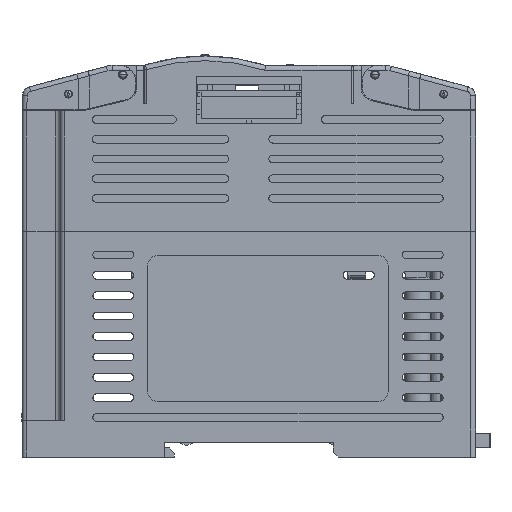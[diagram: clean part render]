
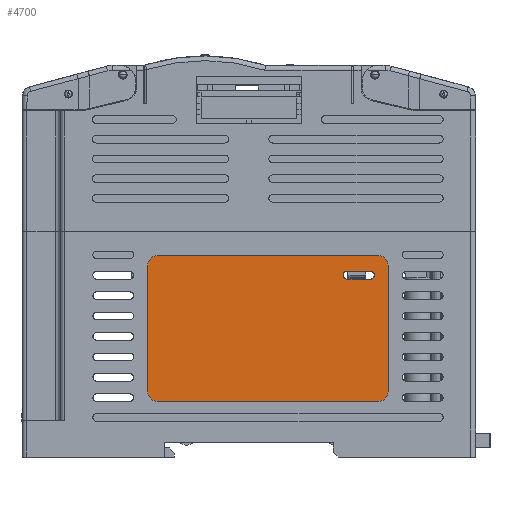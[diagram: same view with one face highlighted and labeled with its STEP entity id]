
A CAD part, left-side view. The second image highlights one B-rep face of the part: STEP entity #4700.
In plain terms, the highlighted planar face has unit normal (-1, 0, 0).
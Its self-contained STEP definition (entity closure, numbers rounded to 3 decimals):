
#246 = VERTEX_POINT ( 'NONE', #55803 ) ;
#787 = CIRCLE ( 'NONE', #13936, 2. ) ;
#1450 = LINE ( 'NONE', #22635, #14474 ) ;
#3240 = CIRCLE ( 'NONE', #15232, 0.8 ) ;
#3316 = ORIENTED_EDGE ( 'NONE', *, *, #4605, .F. ) ;
#3671 = AXIS2_PLACEMENT_3D ( 'NONE', #37310, #47889, #58162 ) ;
#4605 = EDGE_CURVE ( 'NONE', #42013, #60708, #64419, .T. ) ;
#4700 = ADVANCED_FACE ( 'NONE', ( #54514, #24132 ), #45273, .F. ) ;
#5042 = VERTEX_POINT ( 'NONE', #13097 ) ;
#5255 = VERTEX_POINT ( 'NONE', #37613 ) ;
#5494 = VECTOR ( 'NONE', #29542, 1000. ) ;
#7698 = EDGE_CURVE ( 'NONE', #31448, #62986, #38439, .T. ) ;
#7954 = LINE ( 'NONE', #65010, #42555 ) ;
#9081 = EDGE_CURVE ( 'NONE', #43415, #20474, #787, .T. ) ;
#9570 = ORIENTED_EDGE ( 'NONE', *, *, #31612, .T. ) ;
#9587 = EDGE_LOOP ( 'NONE', ( #53824, #30573, #3316, #46898 ) ) ;
#10534 = CARTESIAN_POINT ( 'NONE',  ( -65.065, -27.15, -68.334 ) ) ;
#12755 = ORIENTED_EDGE ( 'NONE', *, *, #9081, .T. ) ;
#12895 = EDGE_CURVE ( 'NONE', #62986, #14877, #1450, .T. ) ;
#13097 = CARTESIAN_POINT ( 'NONE',  ( -65.065, -20.53, -42.733 ) ) ;
#13806 = CARTESIAN_POINT ( 'NONE',  ( -65.065, 21.15, -39.834 ) ) ;
#13936 = AXIS2_PLACEMENT_3D ( 'NONE', #27998, #22867, #38577 ) ;
#14180 = DIRECTION ( 'NONE',  ( 1., 0., 0. ) ) ;
#14474 = VECTOR ( 'NONE', #22974, 1000. ) ;
#14596 = CIRCLE ( 'NONE', #3671, 2. ) ;
#14877 = VERTEX_POINT ( 'NONE', #51519 ) ;
#15025 = DIRECTION ( 'NONE',  ( -1., 0., 0. ) ) ;
#15232 = AXIS2_PLACEMENT_3D ( 'NONE', #44340, #65890, #18069 ) ;
#15562 = VECTOR ( 'NONE', #48705, 1000. ) ;
#15580 = ORIENTED_EDGE ( 'NONE', *, *, #55975, .T. ) ;
#17849 = EDGE_LOOP ( 'NONE', ( #45071, #36575, #12755, #15580, #22948, #9570, #24744, #36608 ) ) ;
#17989 = CARTESIAN_POINT ( 'NONE',  ( -65.065, -20.53, -42.733 ) ) ;
#18069 = DIRECTION ( 'NONE',  ( 0., 0., -1. ) ) ;
#18442 = AXIS2_PLACEMENT_3D ( 'NONE', #34721, #66154, #50768 ) ;
#18924 = EDGE_CURVE ( 'NONE', #14877, #30291, #14596, .T. ) ;
#19092 = CARTESIAN_POINT ( 'NONE',  ( -65.065, 19.15, -68.334 ) ) ;
#20474 = VERTEX_POINT ( 'NONE', #60881 ) ;
#22635 = CARTESIAN_POINT ( 'NONE',  ( -65.065, -29.15, -66.334 ) ) ;
#22763 = CIRCLE ( 'NONE', #18442, 0.8 ) ;
#22867 = DIRECTION ( 'NONE',  ( -1., 0., 0. ) ) ;
#22948 = ORIENTED_EDGE ( 'NONE', *, *, #63991, .T. ) ;
#22974 = DIRECTION ( 'NONE',  ( 0., 0., 1. ) ) ;
#23758 = VECTOR ( 'NONE', #55605, 1000. ) ;
#24132 = FACE_OUTER_BOUND ( 'NONE', #17849, .T. ) ;
#24744 = ORIENTED_EDGE ( 'NONE', *, *, #7698, .T. ) ;
#27247 = VERTEX_POINT ( 'NONE', #38726 ) ;
#27888 = CARTESIAN_POINT ( 'NONE',  ( -65.065, -25.47, -41.133 ) ) ;
#27998 = CARTESIAN_POINT ( 'NONE',  ( -65.065, 19.15, -39.834 ) ) ;
#28118 = EDGE_CURVE ( 'NONE', #5042, #60708, #3240, .T. ) ;
#28992 = LINE ( 'NONE', #19092, #23758 ) ;
#29542 = DIRECTION ( 'NONE',  ( 0., 0., -1. ) ) ;
#29577 = DIRECTION ( 'NONE',  ( -1., 0., 0. ) ) ;
#29700 = CARTESIAN_POINT ( 'NONE',  ( -65.065, -29.15, -66.334 ) ) ;
#29729 = AXIS2_PLACEMENT_3D ( 'NONE', #62154, #15025, #67286 ) ;
#30291 = VERTEX_POINT ( 'NONE', #65439 ) ;
#30573 = ORIENTED_EDGE ( 'NONE', *, *, #28118, .T. ) ;
#31115 = AXIS2_PLACEMENT_3D ( 'NONE', #61658, #29577, #50402 ) ;
#31448 = VERTEX_POINT ( 'NONE', #10534 ) ;
#31612 = EDGE_CURVE ( 'NONE', #5255, #31448, #28992, .T. ) ;
#34721 = CARTESIAN_POINT ( 'NONE',  ( -65.065, -25.47, -41.933 ) ) ;
#36575 = ORIENTED_EDGE ( 'NONE', *, *, #57356, .T. ) ;
#36608 = ORIENTED_EDGE ( 'NONE', *, *, #12895, .T. ) ;
#37310 = CARTESIAN_POINT ( 'NONE',  ( -65.065, -27.15, -39.834 ) ) ;
#37613 = CARTESIAN_POINT ( 'NONE',  ( -65.065, 19.15, -68.334 ) ) ;
#38439 = CIRCLE ( 'NONE', #29729, 2. ) ;
#38577 = DIRECTION ( 'NONE',  ( 0., 0., 1. ) ) ;
#38726 = CARTESIAN_POINT ( 'NONE',  ( -65.065, 21.15, -66.334 ) ) ;
#38773 = CIRCLE ( 'NONE', #31115, 2. ) ;
#41955 = CARTESIAN_POINT ( 'NONE',  ( -65.065, -25.47, -41.133 ) ) ;
#42013 = VERTEX_POINT ( 'NONE', #41955 ) ;
#42555 = VECTOR ( 'NONE', #66358, 1000. ) ;
#43415 = VERTEX_POINT ( 'NONE', #44333 ) ;
#44333 = CARTESIAN_POINT ( 'NONE',  ( -65.065, 19.15, -37.834 ) ) ;
#44340 = CARTESIAN_POINT ( 'NONE',  ( -65.065, -20.53, -41.933 ) ) ;
#45071 = ORIENTED_EDGE ( 'NONE', *, *, #18924, .T. ) ;
#45273 = PLANE ( 'NONE',  #57122 ) ;
#46898 = ORIENTED_EDGE ( 'NONE', *, *, #49452, .T. ) ;
#47889 = DIRECTION ( 'NONE',  ( -1., 0., 0. ) ) ;
#48696 = DIRECTION ( 'NONE',  ( 0., 1., 0. ) ) ;
#48705 = DIRECTION ( 'NONE',  ( 0., -1., 0. ) ) ;
#49452 = EDGE_CURVE ( 'NONE', #42013, #246, #22763, .T. ) ;
#50402 = DIRECTION ( 'NONE',  ( 0., 1., 0. ) ) ;
#50768 = DIRECTION ( 'NONE',  ( 0., 0., 1. ) ) ;
#51519 = CARTESIAN_POINT ( 'NONE',  ( -65.065, -29.15, -39.834 ) ) ;
#53824 = ORIENTED_EDGE ( 'NONE', *, *, #59699, .F. ) ;
#54514 = FACE_BOUND ( 'NONE', #9587, .T. ) ;
#55605 = DIRECTION ( 'NONE',  ( 0., -1., 0. ) ) ;
#55803 = CARTESIAN_POINT ( 'NONE',  ( -65.065, -25.47, -42.733 ) ) ;
#55975 = EDGE_CURVE ( 'NONE', #20474, #27247, #60620, .T. ) ;
#57122 = AXIS2_PLACEMENT_3D ( 'NONE', #65452, #14180, #60980 ) ;
#57356 = EDGE_CURVE ( 'NONE', #30291, #43415, #7954, .T. ) ;
#58162 = DIRECTION ( 'NONE',  ( 0., -1., 0. ) ) ;
#59325 = VECTOR ( 'NONE', #48696, 1000. ) ;
#59699 = EDGE_CURVE ( 'NONE', #5042, #246, #65113, .T. ) ;
#60620 = LINE ( 'NONE', #13806, #5494 ) ;
#60708 = VERTEX_POINT ( 'NONE', #62987 ) ;
#60881 = CARTESIAN_POINT ( 'NONE',  ( -65.065, 21.15, -39.834 ) ) ;
#60980 = DIRECTION ( 'NONE',  ( 0., 1., 0. ) ) ;
#61658 = CARTESIAN_POINT ( 'NONE',  ( -65.065, 19.15, -66.334 ) ) ;
#62154 = CARTESIAN_POINT ( 'NONE',  ( -65.065, -27.15, -66.334 ) ) ;
#62986 = VERTEX_POINT ( 'NONE', #29700 ) ;
#62987 = CARTESIAN_POINT ( 'NONE',  ( -65.065, -20.53, -41.133 ) ) ;
#63991 = EDGE_CURVE ( 'NONE', #27247, #5255, #38773, .T. ) ;
#64419 = LINE ( 'NONE', #27888, #59325 ) ;
#65010 = CARTESIAN_POINT ( 'NONE',  ( -65.065, -27.15, -37.834 ) ) ;
#65113 = LINE ( 'NONE', #17989, #15562 ) ;
#65439 = CARTESIAN_POINT ( 'NONE',  ( -65.065, -27.15, -37.834 ) ) ;
#65452 = CARTESIAN_POINT ( 'NONE',  ( -65.065, -27.15, -39.834 ) ) ;
#65890 = DIRECTION ( 'NONE',  ( 1., 0., 0. ) ) ;
#66154 = DIRECTION ( 'NONE',  ( 1., 0., 0. ) ) ;
#66358 = DIRECTION ( 'NONE',  ( 0., 1., 0. ) ) ;
#67286 = DIRECTION ( 'NONE',  ( 0., 0., -1. ) ) ;
